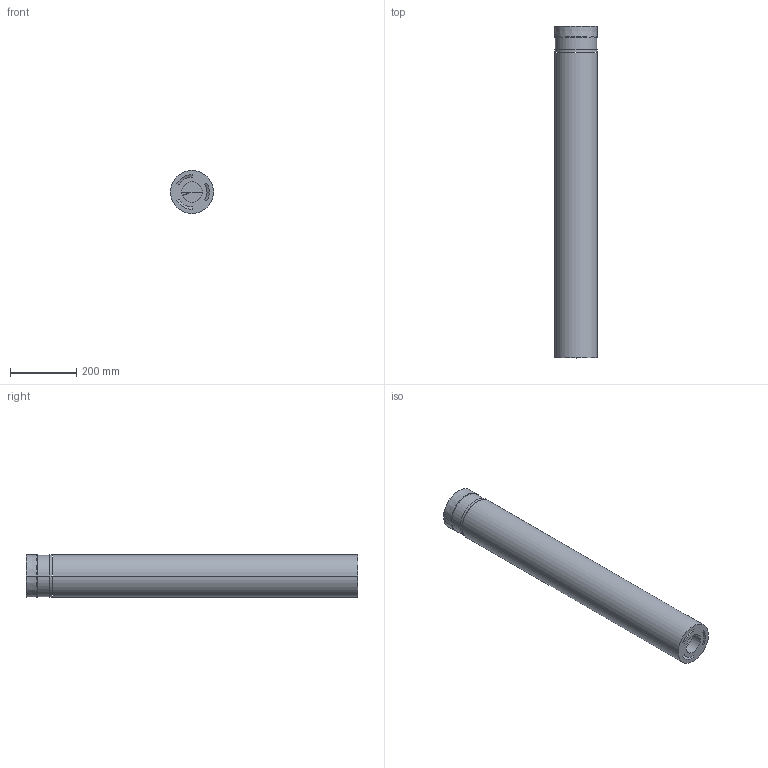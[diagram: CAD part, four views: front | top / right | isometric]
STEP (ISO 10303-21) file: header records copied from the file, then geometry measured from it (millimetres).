
FILE_DESCRIPTION((''),'2;1');
FILE_NAME('PRT0001_SW0006','2025-07-02T09:10:44',('Piccioli'),(''),'CREO PARAMETRIC BY PTC INC, 2025010','CREO PARAMETRIC BY PTC INC, 2025010','');
FILE_SCHEMA(('CONFIG_CONTROL_DESIGN'));
Length unit declared in the file: millimetre
Products named in the file (1): PRT0001_SW0006
Bounding box: 129.72 x 999.02 x 129.72 mm (x, y, z)
Surface area: 823286.5 mm2 (no closed solid volume)
Topology: 0 solids, 7 shells, 32 faces, 105 edges, 77 vertices
Faces by surface type: cone 18, cylinder 10, plane 4
Entity records: 1186 total; most frequent: DIRECTION 220, CARTESIAN_POINT 212, ORIENTED_EDGE 149, EDGE_CURVE 101, AXIS2_PLACEMENT_3D 88, VERTEX_POINT 77, CIRCLE 56, VECTOR 44
